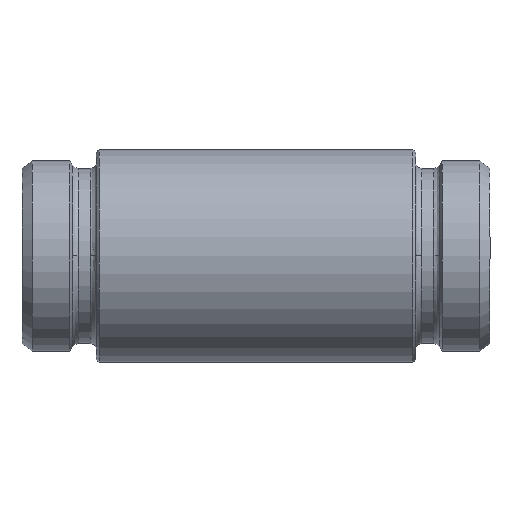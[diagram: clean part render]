
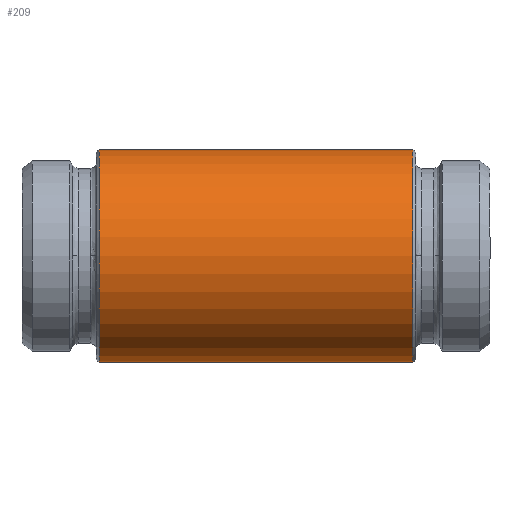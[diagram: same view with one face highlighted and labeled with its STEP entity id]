
A CAD part, top view. The second image highlights one B-rep face of the part: STEP entity #209.
In plain terms, the highlighted cylindrical face has radius 20 mm (diameter 40 mm), a partial arc.
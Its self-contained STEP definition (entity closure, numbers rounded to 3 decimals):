
#143=CARTESIAN_POINT('',(-20.0,0.,34.5));
#144=VERTEX_POINT('',#143);
#160=CARTESIAN_POINT('',(20.0,0.0,34.5));
#161=VERTEX_POINT('',#160);
#168=CARTESIAN_POINT('',(0.0,0.0,34.5));
#169=DIRECTION('',(0.0,0.0,1.0));
#170=DIRECTION('',(-1.0,0.0,0.0));
#171=AXIS2_PLACEMENT_3D('',#168,#169,#170);
#172=CIRCLE('',#171,20.0);
#173=EDGE_CURVE('',#161,#144,#172,.T.);
#178=CARTESIAN_POINT('',(0.0,0.0,-25.0));
#179=DIRECTION('',(0.0,0.0,1.0));
#180=DIRECTION('',(1.0,0.0,0.0));
#181=AXIS2_PLACEMENT_3D('',#178,#179,#180);
#182=CYLINDRICAL_SURFACE('',#181,20.0);
#183=CARTESIAN_POINT('',(20.0,0.0,-24.5));
#184=VERTEX_POINT('',#183);
#185=CARTESIAN_POINT('',(20.0,0.0,-24.5));
#186=DIRECTION('',(0.0,0.0,1.0));
#187=VECTOR('',#186,59.0);
#188=LINE('',#185,#187);
#189=EDGE_CURVE('',#184,#161,#188,.T.);
#190=ORIENTED_EDGE('',*,*,#189,.F.);
#191=CARTESIAN_POINT('',(-20.0,0.,-24.5));
#192=VERTEX_POINT('',#191);
#193=CARTESIAN_POINT('',(0.0,0.0,-24.5));
#194=DIRECTION('',(0.0,0.0,-1.0));
#195=DIRECTION('',(-1.0,0.0,0.0));
#196=AXIS2_PLACEMENT_3D('',#193,#194,#195);
#197=CIRCLE('',#196,20.0);
#198=EDGE_CURVE('',#192,#184,#197,.T.);
#199=ORIENTED_EDGE('',*,*,#198,.F.);
#200=CARTESIAN_POINT('',(-20.0,0.,34.5));
#201=DIRECTION('',(0.0,0.0,-1.0));
#202=VECTOR('',#201,59.0);
#203=LINE('',#200,#202);
#204=EDGE_CURVE('',#144,#192,#203,.T.);
#205=ORIENTED_EDGE('',*,*,#204,.F.);
#206=ORIENTED_EDGE('',*,*,#173,.F.);
#207=EDGE_LOOP('',(#190,#199,#205,#206));
#208=FACE_OUTER_BOUND('',#207,.T.);
#209=ADVANCED_FACE('',(#208),#182,.T.);
